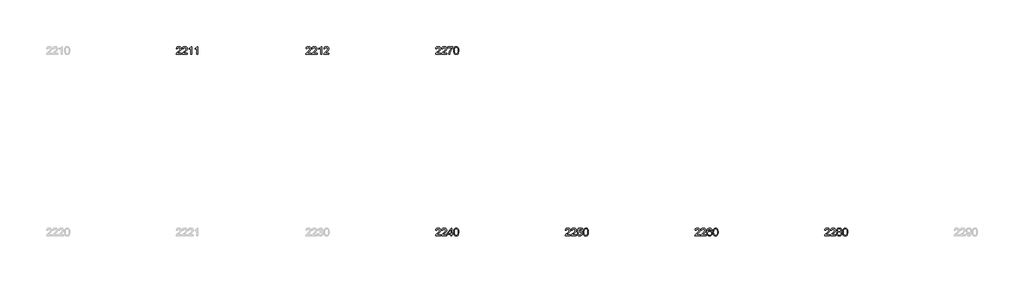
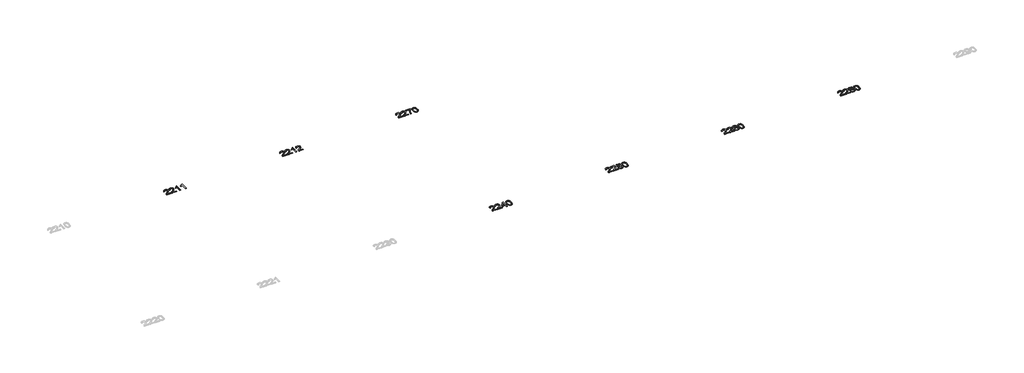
# One storey, part 5 of 6: 7 proxies.
"""IFC4 building model written with IfcOpenShell, lengths in millimetres."""

from ifc_helpers import new_model, si_unit, origin, origin_with_axes, place, context, project, spatial, polyline, outline, extrude, element, save

model = new_model("IFC4")

# Units and contexts
model_context = context("Model", 3, world=origin())
ifc_project = project(units=[si_unit("LENGTHUNIT", "METRE", prefix="MILLI")], contexts=[model_context])

# Site, building, storey
site = spatial("IfcSite", under=ifc_project)
building = spatial("IfcBuilding", under=site)
storey = spatial("IfcBuildingStorey", under=building, Name="Marelli - Linha HOSPITALITY - Planta Baixa", Elevation=0.0)

# Proxies
placement = place(None, origin())
element("IfcBuildingElementProxy", 1, Name="300mm Arial", ObjectType="300mm Arial", at=placement, inside=storey, context=model_context, shape_type="SweptSolid", body=[
    extrude(outline(polyline([(10652.3420691, 2257.1047962), (10652.3420691, 2219.4336799), (10454.5687085, 2219.4336799), (10458.6154104, 2245.4061488), (10467.9044308, 2265.7040379), (10481.4976705, 2285.3949217), (10501.1609632, 2306.0055104), (10528.6601423, 2329.0625145), (10569.3111028, 2365.1701323), (10593.701679, 2391.8231829), (10605.8969672, 2413.4546442), (10609.9620632, 2434.4974943), (10606.1268934, 2453.3606436), (10594.621384, 2469.0416137), (10576.9354571, 2479.609024), (10554.5590348, 2483.1314941), (10531.0605723, 2479.6917974), (10512.8044283, 2469.3727075), (10501.0230074, 2452.9835646), (10496.9487143, 2431.3337092), (10459.277598, 2436.0425987), (10468.4102685, 2472.4813103), (10476.9566271, 2487.0172476), (10488.1563346, 2499.0975727), (10501.7518736, 2508.5935267), (10517.4857267, 2515.376351), (10555.3683751, 2520.8026104), (10575.5581989, 2519.2942942), (10593.5269351, 2514.7693457), (10609.2745837, 2507.2277648), (10622.8011449, 2496.6695515), (10633.66516, 2483.8764551), (10641.4251709, 2469.6302249), (10646.0811774, 2453.9308607), (10647.6331795, 2436.7783627), (10645.9593165, 2418.761342), (10640.9377272, 2401.057021), (10632.0257859, 2383.0491973), (10618.6808665, 2364.1216686), (10597.4080901, 2341.5245171), (10564.7125778, 2312.5078247), (10521.3760788, 2276.2714482), (10504.3799306, 2257.1047962), (10652.3420691, 2257.1047962)])), origin_with_axes(), (0.0, 0.0, 1.0), 10.0),
    extrude(outline(polyline([(10883.0776564, 2257.1047962), (10883.0776564, 2219.4336799), (10685.3042958, 2219.4336799), (10689.3509978, 2245.4061488), (10698.6400182, 2265.7040379), (10712.2332579, 2285.3949217), (10731.8965505, 2306.0055104), (10759.3957297, 2329.0625145), (10800.0466901, 2365.1701323), (10824.4372664, 2391.8231829), (10836.6325546, 2413.4546442), (10840.6976506, 2434.4974943), (10836.8624808, 2453.3606436), (10825.3569714, 2469.0416137), (10807.6710445, 2479.609024), (10785.2946221, 2483.1314941), (10761.7961597, 2479.6917974), (10743.5400157, 2469.3727075), (10731.7585948, 2452.9835646), (10727.6843017, 2431.3337092), (10690.0131854, 2436.0425987), (10699.1458559, 2472.4813103), (10707.6922145, 2487.0172476), (10718.891922, 2499.0975727), (10732.487461, 2508.5935267), (10748.2213141, 2515.376351), (10786.1039625, 2520.8026104), (10806.2937863, 2519.2942942), (10824.2625225, 2514.7693457), (10840.0101711, 2507.2277648), (10853.5367322, 2496.6695515), (10864.4007474, 2483.8764551), (10872.1607582, 2469.6302249), (10876.8167647, 2453.9308607), (10878.3687669, 2436.7783627), (10876.6949038, 2418.761342), (10871.6733146, 2401.057021), (10862.7613733, 2383.0491973), (10849.4164539, 2364.1216686), (10828.1436775, 2341.5245171), (10795.4481652, 2312.5078247), (10752.1116662, 2276.2714482), (10735.115518, 2257.1047962), (10883.0776564, 2257.1047962)])), origin_with_axes(), (0.0, 0.0, 1.0), 10.0),
    extrude(outline(polyline([(11043.1799007, 2219.4336799), (11043.1799007, 2290.067023), (10906.6221041, 2290.067023), (10906.6221041, 2327.7381393), (11052.5976798, 2516.0937208), (11080.8510171, 2516.0937208), (11080.8510171, 2327.7381393), (11118.5221334, 2327.7381393), (11118.5221334, 2290.067023), (11080.8510171, 2290.067023), (11080.8510171, 2219.4336799), (11043.1799007, 2219.4336799)]), holes=[polyline([(11043.1799007, 2327.7381393), (11043.1799007, 2444.1360026), (10952.9752355, 2327.7381393), (11043.1799007, 2327.7381393)])]), origin_with_axes(), (0.0, 0.0, 1.0), 10.0),
    extrude(outline(polyline([(11151.4843601, 2367.690124), (11154.2526721, 2415.9286506), (11162.5576082, 2454.3999103), (11176.3163948, 2483.6925141), (11195.4462585, 2504.3950734), (11220.0851552, 2516.7007261), (11250.3710404, 2520.8026104), (11273.5843943, 2518.3745892), (11294.3697271, 2511.0905257), (11311.7521513, 2499.2355284), (11324.7567799, 2483.0947059), (11334.5792291, 2462.8060138), (11342.4151156, 2438.5074081), (11347.5470695, 2407.6513057), (11349.2577207, 2367.690124), (11346.5169999, 2319.7275089), (11338.2948373, 2281.3482197), (11324.6188241, 2252.0280247), (11305.5165515, 2231.242692), (11280.8224726, 2218.8542658), (11250.3710404, 2214.7247904), (11229.6224959, 2216.5182151), (11211.2283961, 2221.8984893), (11195.1887412, 2230.8656129), (11181.5035309, 2243.419586), (11168.3701437, 2266.1133066), (11158.9891528, 2294.3896364), (11153.3605583, 2328.2485756), (11151.4843601, 2367.690124)]), holes=[polyline([(11189.1554764, 2367.7637004), (11193.5700604, 2308.507108), (11199.0882903, 2288.2391093), (11206.8138122, 2274.211309), (11226.5322871, 2257.8497573), (11250.3710404, 2252.3959067), (11274.2097937, 2257.8681514), (11293.9282687, 2274.2848854), (11301.6537906, 2288.3356784), (11307.1720205, 2308.5990785), (11311.5866044, 2367.7637004), (11307.3191733, 2425.6867205), (11301.9848844, 2445.8880406), (11294.5168798, 2460.249234), (11274.8351931, 2477.410929), (11249.929582, 2483.1314941), (11226.3483461, 2478.0915107), (11207.4024234, 2462.9715607), (11199.4193841, 2447.3365759), (11193.7172132, 2426.2569376), (11189.1554764, 2367.7637004)])]), origin_with_axes(), (0.0, 0.0, 1.0), 10.0),
])
element("IfcBuildingElementProxy", 2, Name="300mm Arial", ObjectType="300mm Arial", at=placement, inside=storey, context=model_context, shape_type="SweptSolid", body=[
    extrude(outline(polyline([(10652.3420691, 9257.1047962), (10652.3420691, 9219.4336799), (10454.5687085, 9219.4336799), (10458.6154104, 9245.4061488), (10467.9044308, 9265.7040379), (10481.4976705, 9285.3949217), (10501.1609632, 9306.0055104), (10528.6601423, 9329.0625145), (10569.3111028, 9365.1701323), (10593.701679, 9391.8231829), (10605.8969672, 9413.4546442), (10609.9620632, 9434.4974943), (10606.1268934, 9453.3606436), (10594.621384, 9469.0416137), (10576.9354571, 9479.609024), (10554.5590348, 9483.1314941), (10531.0605723, 9479.6917974), (10512.8044283, 9469.3727075), (10501.0230074, 9452.9835646), (10496.9487143, 9431.3337092), (10459.277598, 9436.0425987), (10468.4102685, 9472.4813103), (10476.9566271, 9487.0172476), (10488.1563346, 9499.0975727), (10501.7518736, 9508.5935267), (10517.4857267, 9515.376351), (10555.3683751, 9520.8026104), (10575.5581989, 9519.2942942), (10593.5269351, 9514.7693457), (10609.2745837, 9507.2277648), (10622.8011449, 9496.6695515), (10633.66516, 9483.8764551), (10641.4251709, 9469.6302249), (10646.0811774, 9453.9308607), (10647.6331795, 9436.7783627), (10645.9593165, 9418.761342), (10640.9377272, 9401.057021), (10632.0257859, 9383.0491973), (10618.6808665, 9364.1216686), (10597.4080901, 9341.5245171), (10564.7125778, 9312.5078247), (10521.3760788, 9276.2714482), (10504.3799306, 9257.1047962), (10652.3420691, 9257.1047962)])), origin_with_axes(), (0.0, 0.0, 1.0), 10.0),
    extrude(outline(polyline([(10883.0776564, 9257.1047962), (10883.0776564, 9219.4336799), (10685.3042958, 9219.4336799), (10689.3509978, 9245.4061488), (10698.6400182, 9265.7040379), (10712.2332579, 9285.3949217), (10731.8965505, 9306.0055104), (10759.3957297, 9329.0625145), (10800.0466901, 9365.1701323), (10824.4372664, 9391.8231829), (10836.6325546, 9413.4546442), (10840.6976506, 9434.4974943), (10836.8624808, 9453.3606436), (10825.3569714, 9469.0416137), (10807.6710445, 9479.609024), (10785.2946221, 9483.1314941), (10761.7961597, 9479.6917974), (10743.5400157, 9469.3727075), (10731.7585948, 9452.9835646), (10727.6843017, 9431.3337092), (10690.0131854, 9436.0425987), (10699.1458559, 9472.4813103), (10707.6922145, 9487.0172476), (10718.891922, 9499.0975727), (10732.487461, 9508.5935267), (10748.2213141, 9515.376351), (10786.1039625, 9520.8026104), (10806.2937863, 9519.2942942), (10824.2625225, 9514.7693457), (10840.0101711, 9507.2277648), (10853.5367322, 9496.6695515), (10864.4007474, 9483.8764551), (10872.1607582, 9469.6302249), (10876.8167647, 9453.9308607), (10878.3687669, 9436.7783627), (10876.6949038, 9418.761342), (10871.6733146, 9401.057021), (10862.7613733, 9383.0491973), (10849.4164539, 9364.1216686), (10828.1436775, 9341.5245171), (10795.4481652, 9312.5078247), (10752.1116662, 9276.2714482), (10735.115518, 9257.1047962), (10883.0776564, 9257.1047962)])), origin_with_axes(), (0.0, 0.0, 1.0), 10.0),
    extrude(outline(polyline([(10920.7487728, 9478.4226045), (10920.7487728, 9516.0937208), (11118.5221334, 9516.0937208), (11118.5221334, 9485.6330916), (11090.3331755, 9449.9577352), (11062.4201291, 9404.5886881), (11037.7996266, 9353.6646229), (11019.4883003, 9301.3242121), (11010.5119796, 9262.1631737), (11005.5087844, 9219.4336799), (10967.8376681, 9219.4336799), (10971.9119612, 9258.2636245), (10982.8104653, 9304.4144208), (11000.2388749, 9353.3335291), (11023.9028842, 9400.4684098), (11051.530822, 9443.0783418), (11080.8510171, 9478.4226045), (10920.7487728, 9478.4226045)])), origin_with_axes(), (0.0, 0.0, 1.0), 10.0),
    extrude(outline(polyline([(11151.4843601, 9367.690124), (11154.2526721, 9415.9286506), (11162.5576082, 9454.3999103), (11176.3163948, 9483.6925141), (11195.4462585, 9504.3950734), (11220.0851552, 9516.7007261), (11250.3710404, 9520.8026104), (11273.5843943, 9518.3745892), (11294.3697271, 9511.0905257), (11311.7521513, 9499.2355284), (11324.7567799, 9483.0947059), (11334.5792291, 9462.8060138), (11342.4151156, 9438.5074081), (11347.5470695, 9407.6513057), (11349.2577207, 9367.690124), (11346.5169999, 9319.7275089), (11338.2948373, 9281.3482197), (11324.6188241, 9252.0280247), (11305.5165515, 9231.242692), (11280.8224726, 9218.8542658), (11250.3710404, 9214.7247904), (11229.6224959, 9216.5182151), (11211.2283961, 9221.8984893), (11195.1887412, 9230.8656129), (11181.5035309, 9243.419586), (11168.3701437, 9266.1133066), (11158.9891528, 9294.3896364), (11153.3605583, 9328.2485756), (11151.4843601, 9367.690124)]), holes=[polyline([(11189.1554764, 9367.7637004), (11193.5700604, 9308.507108), (11199.0882903, 9288.2391093), (11206.8138122, 9274.211309), (11226.5322871, 9257.8497573), (11250.3710404, 9252.3959067), (11274.2097937, 9257.8681514), (11293.9282687, 9274.2848854), (11301.6537906, 9288.3356784), (11307.1720205, 9308.5990785), (11311.5866044, 9367.7637004), (11307.3191733, 9425.6867205), (11301.9848844, 9445.8880406), (11294.5168798, 9460.249234), (11274.8351931, 9477.410929), (11249.929582, 9483.1314941), (11226.3483461, 9478.0915107), (11207.4024234, 9462.9715607), (11199.4193841, 9447.3365759), (11193.7172132, 9426.2569376), (11189.1554764, 9367.7637004)])]), origin_with_axes(), (0.0, 0.0, 1.0), 10.0),
])
element("IfcBuildingElementProxy", 3, Name="300mm Arial", ObjectType="300mm Arial", at=placement, inside=storey, context=model_context, shape_type="SweptSolid", body=[
    extrude(outline(polyline([(652.3420691, 9257.1047962), (652.3420691, 9219.4336799), (454.5687085, 9219.4336799), (458.6154104, 9245.4061488), (467.9044308, 9265.7040379), (481.4976705, 9285.3949217), (501.1609632, 9306.0055104), (528.6601423, 9329.0625145), (569.3111028, 9365.1701323), (593.701679, 9391.8231829), (605.8969672, 9413.4546442), (609.9620632, 9434.4974943), (606.1268934, 9453.3606436), (594.621384, 9469.0416137), (576.9354571, 9479.609024), (554.5590348, 9483.1314941), (531.0605723, 9479.6917974), (512.8044283, 9469.3727075), (501.0230074, 9452.9835646), (496.9487143, 9431.3337092), (459.277598, 9436.0425987), (468.4102685, 9472.4813103), (476.9566271, 9487.0172476), (488.1563346, 9499.0975727), (501.7518736, 9508.5935267), (517.4857267, 9515.376351), (555.3683751, 9520.8026104), (575.5581989, 9519.2942942), (593.5269351, 9514.7693457), (609.2745837, 9507.2277648), (622.8011449, 9496.6695515), (633.66516, 9483.8764551), (641.4251709, 9469.6302249), (646.0811774, 9453.9308607), (647.6331795, 9436.7783627), (645.9593165, 9418.761342), (640.9377272, 9401.057021), (632.0257859, 9383.0491973), (618.6808665, 9364.1216686), (597.4080901, 9341.5245171), (564.7125778, 9312.5078247), (521.3760788, 9276.2714482), (504.3799306, 9257.1047962), (652.3420691, 9257.1047962)])), origin_with_axes(), (0.0, 0.0, 1.0), 10.0),
    extrude(outline(polyline([(883.0776564, 9257.1047962), (883.0776564, 9219.4336799), (685.3042958, 9219.4336799), (689.3509978, 9245.4061488), (698.6400182, 9265.7040379), (712.2332579, 9285.3949217), (731.8965505, 9306.0055104), (759.3957297, 9329.0625145), (800.0466901, 9365.1701323), (824.4372664, 9391.8231829), (836.6325546, 9413.4546442), (840.6976506, 9434.4974943), (836.8624808, 9453.3606436), (825.3569714, 9469.0416137), (807.6710445, 9479.609024), (785.2946221, 9483.1314941), (761.7961597, 9479.6917974), (743.5400157, 9469.3727075), (731.7585948, 9452.9835646), (727.6843017, 9431.3337092), (690.0131854, 9436.0425987), (699.1458559, 9472.4813103), (707.6922145, 9487.0172476), (718.891922, 9499.0975727), (732.487461, 9508.5935267), (748.2213141, 9515.376351), (786.1039625, 9520.8026104), (806.2937863, 9519.2942942), (824.2625225, 9514.7693457), (840.0101711, 9507.2277648), (853.5367322, 9496.6695515), (864.4007474, 9483.8764551), (872.1607582, 9469.6302249), (876.8167647, 9453.9308607), (878.3687669, 9436.7783627), (876.6949038, 9418.761342), (871.6733146, 9401.057021), (862.7613733, 9383.0491973), (849.4164539, 9364.1216686), (828.1436775, 9341.5245171), (795.4481652, 9312.5078247), (752.1116662, 9276.2714482), (735.115518, 9257.1047962), (883.0776564, 9257.1047962)])), origin_with_axes(), (0.0, 0.0, 1.0), 10.0),
    extrude(outline(polyline([(1062.0154589, 9219.4336799), (1024.3443426, 9219.4336799), (1024.3443426, 9454.2895457), (988.6597891, 9428.8688998), (949.00211, 9409.8494006), (949.00211, 9445.4603778), (978.5890194, 9461.5552151), (1004.2211975, 9480.7034729), (1024.427116, 9501.0657413), (1037.7352472, 9520.8026104), (1062.0154589, 9520.8026104), (1062.0154589, 9219.4336799)])), origin_with_axes(), (0.0, 0.0, 1.0), 10.0),
    extrude(outline(polyline([(1292.7510463, 9219.4336799), (1255.07993, 9219.4336799), (1255.07993, 9454.2895457), (1219.3953764, 9428.8688998), (1179.7376974, 9409.8494006), (1179.7376974, 9445.4603778), (1209.3246068, 9461.5552151), (1234.9567848, 9480.7034729), (1255.1627034, 9501.0657413), (1268.4708346, 9520.8026104), (1292.7510463, 9520.8026104), (1292.7510463, 9219.4336799)])), origin_with_axes(), (0.0, 0.0, 1.0), 10.0),
])
element("IfcBuildingElementProxy", 4, Name="300mm Arial", ObjectType="300mm Arial", at=placement, inside=storey, context=model_context, shape_type="SweptSolid", body=[
    extrude(outline(polyline([(5652.3420691, 9257.1047962), (5652.3420691, 9219.4336799), (5454.5687085, 9219.4336799), (5458.6154104, 9245.4061488), (5467.9044308, 9265.7040379), (5481.4976705, 9285.3949217), (5501.1609632, 9306.0055104), (5528.6601423, 9329.0625145), (5569.3111028, 9365.1701323), (5593.701679, 9391.8231829), (5605.8969672, 9413.4546442), (5609.9620632, 9434.4974943), (5606.1268934, 9453.3606436), (5594.621384, 9469.0416137), (5576.9354571, 9479.609024), (5554.5590348, 9483.1314941), (5531.0605723, 9479.6917974), (5512.8044283, 9469.3727075), (5501.0230074, 9452.9835646), (5496.9487143, 9431.3337092), (5459.277598, 9436.0425987), (5468.4102685, 9472.4813103), (5476.9566271, 9487.0172476), (5488.1563346, 9499.0975727), (5501.7518736, 9508.5935267), (5517.4857267, 9515.376351), (5555.3683751, 9520.8026104), (5575.5581989, 9519.2942942), (5593.5269351, 9514.7693457), (5609.2745837, 9507.2277648), (5622.8011449, 9496.6695515), (5633.66516, 9483.8764551), (5641.4251709, 9469.6302249), (5646.0811774, 9453.9308607), (5647.6331795, 9436.7783627), (5645.9593165, 9418.761342), (5640.9377272, 9401.057021), (5632.0257859, 9383.0491973), (5618.6808665, 9364.1216686), (5597.4080901, 9341.5245171), (5564.7125778, 9312.5078247), (5521.3760788, 9276.2714482), (5504.3799306, 9257.1047962), (5652.3420691, 9257.1047962)])), origin_with_axes(), (0.0, 0.0, 1.0), 10.0),
    extrude(outline(polyline([(5883.0776564, 9257.1047962), (5883.0776564, 9219.4336799), (5685.3042958, 9219.4336799), (5689.3509978, 9245.4061488), (5698.6400182, 9265.7040379), (5712.2332579, 9285.3949217), (5731.8965505, 9306.0055104), (5759.3957297, 9329.0625145), (5800.0466901, 9365.1701323), (5824.4372664, 9391.8231829), (5836.6325546, 9413.4546442), (5840.6976506, 9434.4974943), (5836.8624808, 9453.3606436), (5825.3569714, 9469.0416137), (5807.6710445, 9479.609024), (5785.2946221, 9483.1314941), (5761.7961597, 9479.6917974), (5743.5400157, 9469.3727075), (5731.7585948, 9452.9835646), (5727.6843017, 9431.3337092), (5690.0131854, 9436.0425987), (5699.1458559, 9472.4813103), (5707.6922145, 9487.0172476), (5718.891922, 9499.0975727), (5732.487461, 9508.5935267), (5748.2213141, 9515.376351), (5786.1039625, 9520.8026104), (5806.2937863, 9519.2942942), (5824.2625225, 9514.7693457), (5840.0101711, 9507.2277648), (5853.5367322, 9496.6695515), (5864.4007474, 9483.8764551), (5872.1607582, 9469.6302249), (5876.8167647, 9453.9308607), (5878.3687669, 9436.7783627), (5876.6949038, 9418.761342), (5871.6733146, 9401.057021), (5862.7613733, 9383.0491973), (5849.4164539, 9364.1216686), (5828.1436775, 9341.5245171), (5795.4481652, 9312.5078247), (5752.1116662, 9276.2714482), (5735.115518, 9257.1047962), (5883.0776564, 9257.1047962)])), origin_with_axes(), (0.0, 0.0, 1.0), 10.0),
    extrude(outline(polyline([(6062.0154589, 9219.4336799), (6024.3443426, 9219.4336799), (6024.3443426, 9454.2895457), (5988.6597891, 9428.8688998), (5949.00211, 9409.8494006), (5949.00211, 9445.4603778), (5978.5890194, 9461.5552151), (6004.2211975, 9480.7034729), (6024.427116, 9501.0657413), (6037.7352472, 9520.8026104), (6062.0154589, 9520.8026104), (6062.0154589, 9219.4336799)])), origin_with_axes(), (0.0, 0.0, 1.0), 10.0),
    extrude(outline(polyline([(6344.5488312, 9257.1047962), (6344.5488312, 9219.4336799), (6146.7754706, 9219.4336799), (6150.8221725, 9245.4061488), (6160.1111929, 9265.7040379), (6173.7044326, 9285.3949217), (6193.3677253, 9306.0055104), (6220.8669044, 9329.0625145), (6261.5178649, 9365.1701323), (6285.9084412, 9391.8231829), (6298.1037293, 9413.4546442), (6302.1688253, 9434.4974943), (6298.3336555, 9453.3606436), (6286.8281462, 9469.0416137), (6269.1422192, 9479.609024), (6246.7657969, 9483.1314941), (6223.2673344, 9479.6917974), (6205.0111904, 9469.3727075), (6193.2297695, 9452.9835646), (6189.1554764, 9431.3337092), (6151.4843601, 9436.0425987), (6160.6170307, 9472.4813103), (6169.1633893, 9487.0172476), (6180.3630967, 9499.0975727), (6193.9586357, 9508.5935267), (6209.6924888, 9515.376351), (6247.5751373, 9520.8026104), (6267.764961, 9519.2942942), (6285.7336972, 9514.7693457), (6301.4813459, 9507.2277648), (6315.007907, 9496.6695515), (6325.8719222, 9483.8764551), (6333.631933, 9469.6302249), (6338.2879395, 9453.9308607), (6339.8399417, 9436.7783627), (6338.1660786, 9418.761342), (6333.1444893, 9401.057021), (6324.232548, 9383.0491973), (6310.8876286, 9364.1216686), (6289.6148523, 9341.5245171), (6256.9193399, 9312.5078247), (6213.5828409, 9276.2714482), (6196.5866927, 9257.1047962), (6344.5488312, 9257.1047962)])), origin_with_axes(), (0.0, 0.0, 1.0), 10.0),
])
element("IfcBuildingElementProxy", 5, Name="300mm Arial", ObjectType="300mm Arial", at=placement, inside=storey, context=model_context, shape_type="SweptSolid", body=[
    extrude(outline(polyline([(15652.3420691, 2257.1047962), (15652.3420691, 2219.4336799), (15454.5687085, 2219.4336799), (15458.6154104, 2245.4061488), (15467.9044308, 2265.7040379), (15481.4976705, 2285.3949217), (15501.1609632, 2306.0055104), (15528.6601423, 2329.0625145), (15569.3111028, 2365.1701323), (15593.701679, 2391.8231829), (15605.8969672, 2413.4546442), (15609.9620632, 2434.4974943), (15606.1268934, 2453.3606436), (15594.621384, 2469.0416137), (15576.9354571, 2479.609024), (15554.5590348, 2483.1314941), (15531.0605723, 2479.6917974), (15512.8044283, 2469.3727075), (15501.0230074, 2452.9835646), (15496.9487143, 2431.3337092), (15459.277598, 2436.0425987), (15468.4102685, 2472.4813103), (15476.9566271, 2487.0172476), (15488.1563346, 2499.0975727), (15501.7518736, 2508.5935267), (15517.4857267, 2515.376351), (15555.3683751, 2520.8026104), (15575.5581989, 2519.2942942), (15593.5269351, 2514.7693457), (15609.2745837, 2507.2277648), (15622.8011449, 2496.6695515), (15633.66516, 2483.8764551), (15641.4251709, 2469.6302249), (15646.0811774, 2453.9308607), (15647.6331795, 2436.7783627), (15645.9593165, 2418.761342), (15640.9377272, 2401.057021), (15632.0257859, 2383.0491973), (15618.6808665, 2364.1216686), (15597.4080901, 2341.5245171), (15564.7125778, 2312.5078247), (15521.3760788, 2276.2714482), (15504.3799306, 2257.1047962), (15652.3420691, 2257.1047962)])), origin_with_axes(), (0.0, 0.0, 1.0), 10.0),
    extrude(outline(polyline([(15883.0776564, 2257.1047962), (15883.0776564, 2219.4336799), (15685.3042958, 2219.4336799), (15689.3509978, 2245.4061488), (15698.6400182, 2265.7040379), (15712.2332579, 2285.3949217), (15731.8965505, 2306.0055104), (15759.3957297, 2329.0625145), (15800.0466901, 2365.1701323), (15824.4372664, 2391.8231829), (15836.6325546, 2413.4546442), (15840.6976506, 2434.4974943), (15836.8624808, 2453.3606436), (15825.3569714, 2469.0416137), (15807.6710445, 2479.609024), (15785.2946221, 2483.1314941), (15761.7961597, 2479.6917974), (15743.5400157, 2469.3727075), (15731.7585948, 2452.9835646), (15727.6843017, 2431.3337092), (15690.0131854, 2436.0425987), (15699.1458559, 2472.4813103), (15707.6922145, 2487.0172476), (15718.891922, 2499.0975727), (15732.487461, 2508.5935267), (15748.2213141, 2515.376351), (15786.1039625, 2520.8026104), (15806.2937863, 2519.2942942), (15824.2625225, 2514.7693457), (15840.0101711, 2507.2277648), (15853.5367322, 2496.6695515), (15864.4007474, 2483.8764551), (15872.1607582, 2469.6302249), (15876.8167647, 2453.9308607), (15878.3687669, 2436.7783627), (15876.6949038, 2418.761342), (15871.6733146, 2401.057021), (15862.7613733, 2383.0491973), (15849.4164539, 2364.1216686), (15828.1436775, 2341.5245171), (15795.4481652, 2312.5078247), (15752.1116662, 2276.2714482), (15735.115518, 2257.1047962), (15883.0776564, 2257.1047962)])), origin_with_axes(), (0.0, 0.0, 1.0), 10.0),
    extrude(outline(polyline([(15920.7487728, 2299.4848021), (15958.4198891, 2304.1936916), (15965.3360706, 2281.578146), (15977.4026, 2265.3821411), (15994.5642951, 2255.6424653), (16016.7659735, 2252.3959067), (16043.7685119, 2256.9116582), (16064.0020217, 2270.4589127), (16076.6387682, 2291.4741716), (16080.8510171, 2318.3939366), (16076.9054827, 2343.7410061), (16065.0688795, 2363.1283872), (16045.249237, 2375.43404), (16017.3545847, 2379.5359242), (15999.0800466, 2377.8988494), (15984.2819933, 2372.9876247), (15963.1287786, 2355.9914765), (15925.4576623, 2360.7003661), (15958.4198891, 2516.0937208), (16104.3954647, 2516.0937208), (16104.3954647, 2478.4226045), (15988.8805183, 2478.4226045), (15972.7672869, 2395.4284264), (15999.6778548, 2411.762387), (16027.8760097, 2417.2070405), (16046.221825, 2415.5193819), (16063.0731196, 2410.4564059), (16078.4298937, 2402.0181127), (16092.2921471, 2390.2045021), (16103.7677661, 2375.7375426), (16111.9646368, 2359.3392027), (16116.8827592, 2341.0094823), (16118.5221334, 2320.7483814), (16112.6176273, 2283.0772651), (16105.2369948, 2266.283452), (16094.9041093, 2250.8508023), (16079.2507304, 2235.0456721), (16060.9853893, 2223.7562934), (16040.1080861, 2216.9826661), (16016.6188207, 2214.7247904), (15979.619089, 2220.5281289), (15963.9404182, 2227.782302), (15950.1425442, 2237.9381443), (15938.6623267, 2250.4898181), (15929.9366256, 2264.9314857), (15920.7487728, 2299.4848021)])), origin_with_axes(), (0.0, 0.0, 1.0), 10.0),
    extrude(outline(polyline([(16151.4843601, 2367.690124), (16154.2526721, 2415.9286506), (16162.5576082, 2454.3999103), (16176.3163948, 2483.6925141), (16195.4462585, 2504.3950734), (16220.0851552, 2516.7007261), (16250.3710404, 2520.8026104), (16273.5843943, 2518.3745892), (16294.3697271, 2511.0905257), (16311.7521513, 2499.2355284), (16324.7567799, 2483.0947059), (16334.5792291, 2462.8060138), (16342.4151156, 2438.5074081), (16347.5470695, 2407.6513057), (16349.2577207, 2367.690124), (16346.5169999, 2319.7275089), (16338.2948373, 2281.3482197), (16324.6188241, 2252.0280247), (16305.5165515, 2231.242692), (16280.8224726, 2218.8542658), (16250.3710404, 2214.7247904), (16229.6224959, 2216.5182151), (16211.2283961, 2221.8984893), (16195.1887412, 2230.8656129), (16181.5035309, 2243.419586), (16168.3701437, 2266.1133066), (16158.9891528, 2294.3896364), (16153.3605583, 2328.2485756), (16151.4843601, 2367.690124)]), holes=[polyline([(16189.1554764, 2367.7637004), (16193.5700604, 2308.507108), (16199.0882903, 2288.2391093), (16206.8138122, 2274.211309), (16226.5322871, 2257.8497573), (16250.3710404, 2252.3959067), (16274.2097937, 2257.8681514), (16293.9282687, 2274.2848854), (16301.6537906, 2288.3356784), (16307.1720205, 2308.5990785), (16311.5866044, 2367.7637004), (16307.3191733, 2425.6867205), (16301.9848844, 2445.8880406), (16294.5168798, 2460.249234), (16274.8351931, 2477.410929), (16249.929582, 2483.1314941), (16226.3483461, 2478.0915107), (16207.4024234, 2462.9715607), (16199.4193841, 2447.3365759), (16193.7172132, 2426.2569376), (16189.1554764, 2367.7637004)])]), origin_with_axes(), (0.0, 0.0, 1.0), 10.0),
])
element("IfcBuildingElementProxy", 6, Name="300mm Arial", ObjectType="300mm Arial", at=placement, inside=storey, context=model_context, shape_type="SweptSolid", body=[
    extrude(outline(polyline([(25652.3420691, 2257.1047962), (25652.3420691, 2219.4336799), (25454.5687085, 2219.4336799), (25458.6154104, 2245.4061488), (25467.9044308, 2265.7040379), (25481.4976705, 2285.3949217), (25501.1609632, 2306.0055104), (25528.6601423, 2329.0625145), (25569.3111028, 2365.1701323), (25593.701679, 2391.8231829), (25605.8969672, 2413.4546442), (25609.9620632, 2434.4974943), (25606.1268934, 2453.3606436), (25594.621384, 2469.0416137), (25576.9354571, 2479.609024), (25554.5590348, 2483.1314941), (25531.0605723, 2479.6917974), (25512.8044283, 2469.3727075), (25501.0230074, 2452.9835646), (25496.9487143, 2431.3337092), (25459.277598, 2436.0425987), (25468.4102685, 2472.4813103), (25476.9566271, 2487.0172476), (25488.1563346, 2499.0975727), (25501.7518736, 2508.5935267), (25517.4857267, 2515.376351), (25555.3683751, 2520.8026104), (25575.5581989, 2519.2942942), (25593.5269351, 2514.7693457), (25609.2745837, 2507.2277648), (25622.8011449, 2496.6695515), (25633.66516, 2483.8764551), (25641.4251709, 2469.6302249), (25646.0811774, 2453.9308607), (25647.6331795, 2436.7783627), (25645.9593165, 2418.761342), (25640.9377272, 2401.057021), (25632.0257859, 2383.0491973), (25618.6808665, 2364.1216686), (25597.4080901, 2341.5245171), (25564.7125778, 2312.5078247), (25521.3760788, 2276.2714482), (25504.3799306, 2257.1047962), (25652.3420691, 2257.1047962)])), origin_with_axes(), (0.0, 0.0, 1.0), 10.0),
    extrude(outline(polyline([(25883.0776564, 2257.1047962), (25883.0776564, 2219.4336799), (25685.3042958, 2219.4336799), (25689.3509978, 2245.4061488), (25698.6400182, 2265.7040379), (25712.2332579, 2285.3949217), (25731.8965505, 2306.0055104), (25759.3957297, 2329.0625145), (25800.0466901, 2365.1701323), (25824.4372664, 2391.8231829), (25836.6325546, 2413.4546442), (25840.6976506, 2434.4974943), (25836.8624808, 2453.3606436), (25825.3569714, 2469.0416137), (25807.6710445, 2479.609024), (25785.2946221, 2483.1314941), (25761.7961597, 2479.6917974), (25743.5400157, 2469.3727075), (25731.7585948, 2452.9835646), (25727.6843017, 2431.3337092), (25690.0131854, 2436.0425987), (25699.1458559, 2472.4813103), (25707.6922145, 2487.0172476), (25718.891922, 2499.0975727), (25732.487461, 2508.5935267), (25748.2213141, 2515.376351), (25786.1039625, 2520.8026104), (25806.2937863, 2519.2942942), (25824.2625225, 2514.7693457), (25840.0101711, 2507.2277648), (25853.5367322, 2496.6695515), (25864.4007474, 2483.8764551), (25872.1607582, 2469.6302249), (25876.8167647, 2453.9308607), (25878.3687669, 2436.7783627), (25876.6949038, 2418.761342), (25871.6733146, 2401.057021), (25862.7613733, 2383.0491973), (25849.4164539, 2364.1216686), (25828.1436775, 2341.5245171), (25795.4481652, 2312.5078247), (25752.1116662, 2276.2714482), (25735.115518, 2257.1047962), (25883.0776564, 2257.1047962)])), origin_with_axes(), (0.0, 0.0, 1.0), 10.0),
    extrude(outline(polyline([(25975.6367664, 2385.4220362), (25955.467636, 2395.35485), (25941.3133763, 2408.819331), (25932.9532579, 2425.5395677), (25930.1665518, 2445.2396486), (25931.6840651, 2460.6033204), (25936.2366047, 2474.6886023), (25943.8241709, 2487.4954942), (25954.4467635, 2499.0239963), (25967.5939463, 2508.5521399), (25982.755283, 2515.3579569), (26019.1204183, 2520.8026104), (26055.7062827, 2515.2291982), (26071.0331663, 2508.2624329), (26084.3826842, 2498.5089615), (26095.1984149, 2486.7551317), (26102.9239368, 2473.7872914), (26107.5592499, 2459.6054405), (26109.1043543, 2444.209579), (26106.3544364, 2425.1440946), (26098.1046826, 2408.7089665), (26084.2631226, 2395.3272589), (26064.7377857, 2385.4220362), (26087.9235484, 2373.4750684), (26104.8001349, 2355.8811119), (26115.0916338, 2333.4862955), (26118.5221334, 2307.1367476), (26116.8206791, 2288.3471747), (26111.7163164, 2271.1211003), (26103.2090453, 2255.4585243), (26091.2988657, 2241.3594468), (26076.6111771, 2229.7067846), (26059.7713787, 2221.3834545), (26040.7794707, 2216.3894564), (26019.6354531, 2214.7247904), (25998.4914354, 2216.3963542), (25979.4995274, 2221.4110457), (25962.6597291, 2229.7688647), (25947.9720404, 2241.4698114), (25936.0618608, 2255.6677572), (25927.5545897, 2271.5165734), (25922.450227, 2289.0162601), (25920.7487728, 2308.1668172), (25924.3172281, 2335.5372376), (25935.0225942, 2358.0516157), (25952.3130479, 2374.9373993), (25975.6367664, 2385.4220362)]), holes=[polyline([(25967.8376681, 2444.1360026), (25971.1761972, 2427.6916774), (25981.1917846, 2414.5582902), (25997.5901245, 2405.9498515), (26020.0769114, 2403.0803719), (26042.0394666, 2405.9314574), (26058.1894861, 2414.4847138), (26068.1223, 2427.1766426), (26071.433238, 2442.4437454), (26068.0119354, 2458.2902624), (26057.7480278, 2471.3960584), (26041.377279, 2480.1976352), (26019.6354531, 2483.1314941), (25997.7556714, 2480.2620145), (25981.4125138, 2471.6535758), (25971.2313795, 2459.0352234), (25967.8376681, 2444.1360026)]), polyline([(25958.4198891, 2309.4911924), (25964.7106712, 2281.1274905), (25973.4202774, 2268.9597935), (25986.9675319, 2259.9006994), (26003.1911279, 2254.2721049), (26019.9297586, 2252.3959067), (26045.5711337, 2256.3414411), (26064.8113621, 2268.1780443), (26076.8411033, 2286.1030945), (26080.8510171, 2308.31397), (26076.7123446, 2330.9019245), (26064.2963273, 2349.2224478), (26044.6146405, 2361.3625537), (26018.6789599, 2365.4092556), (25993.3962697, 2361.417736), (25974.3491794, 2349.443177), (25962.4022117, 2331.4721416), (25958.4198891, 2309.4911924)])]), origin_with_axes(), (0.0, 0.0, 1.0), 10.0),
    extrude(outline(polyline([(26151.4843601, 2367.690124), (26154.2526721, 2415.9286506), (26162.5576082, 2454.3999103), (26176.3163948, 2483.6925141), (26195.4462585, 2504.3950734), (26220.0851552, 2516.7007261), (26250.3710404, 2520.8026104), (26273.5843943, 2518.3745892), (26294.3697271, 2511.0905257), (26311.7521513, 2499.2355284), (26324.7567799, 2483.0947059), (26334.5792291, 2462.8060138), (26342.4151156, 2438.5074081), (26347.5470695, 2407.6513057), (26349.2577207, 2367.690124), (26346.5169999, 2319.7275089), (26338.2948373, 2281.3482197), (26324.6188241, 2252.0280247), (26305.5165515, 2231.242692), (26280.8224726, 2218.8542658), (26250.3710404, 2214.7247904), (26229.6224959, 2216.5182151), (26211.2283961, 2221.8984893), (26195.1887412, 2230.8656129), (26181.5035309, 2243.419586), (26168.3701437, 2266.1133066), (26158.9891528, 2294.3896364), (26153.3605583, 2328.2485756), (26151.4843601, 2367.690124)]), holes=[polyline([(26189.1554764, 2367.7637004), (26193.5700604, 2308.507108), (26199.0882903, 2288.2391093), (26206.8138122, 2274.211309), (26226.5322871, 2257.8497573), (26250.3710404, 2252.3959067), (26274.2097937, 2257.8681514), (26293.9282687, 2274.2848854), (26301.6537906, 2288.3356784), (26307.1720205, 2308.5990785), (26311.5866044, 2367.7637004), (26307.3191733, 2425.6867205), (26301.9848844, 2445.8880406), (26294.5168798, 2460.249234), (26274.8351931, 2477.410929), (26249.929582, 2483.1314941), (26226.3483461, 2478.0915107), (26207.4024234, 2462.9715607), (26199.4193841, 2447.3365759), (26193.7172132, 2426.2569376), (26189.1554764, 2367.7637004)])]), origin_with_axes(), (0.0, 0.0, 1.0), 10.0),
])
element("IfcBuildingElementProxy", 7, Name="300mm Arial", ObjectType="300mm Arial", at=placement, inside=storey, context=model_context, shape_type="SweptSolid", body=[
    extrude(outline(polyline([(20652.3420691, 2257.1047962), (20652.3420691, 2219.4336799), (20454.5687085, 2219.4336799), (20458.6154104, 2245.4061488), (20467.9044308, 2265.7040379), (20481.4976705, 2285.3949217), (20501.1609632, 2306.0055104), (20528.6601423, 2329.0625145), (20569.3111028, 2365.1701323), (20593.701679, 2391.8231829), (20605.8969672, 2413.4546442), (20609.9620632, 2434.4974943), (20606.1268934, 2453.3606436), (20594.621384, 2469.0416137), (20576.9354571, 2479.609024), (20554.5590348, 2483.1314941), (20531.0605723, 2479.6917974), (20512.8044283, 2469.3727075), (20501.0230074, 2452.9835646), (20496.9487143, 2431.3337092), (20459.277598, 2436.0425987), (20468.4102685, 2472.4813103), (20476.9566271, 2487.0172476), (20488.1563346, 2499.0975727), (20501.7518736, 2508.5935267), (20517.4857267, 2515.376351), (20555.3683751, 2520.8026104), (20575.5581989, 2519.2942942), (20593.5269351, 2514.7693457), (20609.2745837, 2507.2277648), (20622.8011449, 2496.6695515), (20633.66516, 2483.8764551), (20641.4251709, 2469.6302249), (20646.0811774, 2453.9308607), (20647.6331795, 2436.7783627), (20645.9593165, 2418.761342), (20640.9377272, 2401.057021), (20632.0257859, 2383.0491973), (20618.6808665, 2364.1216686), (20597.4080901, 2341.5245171), (20564.7125778, 2312.5078247), (20521.3760788, 2276.2714482), (20504.3799306, 2257.1047962), (20652.3420691, 2257.1047962)])), origin_with_axes(), (0.0, 0.0, 1.0), 10.0),
    extrude(outline(polyline([(20883.0776564, 2257.1047962), (20883.0776564, 2219.4336799), (20685.3042958, 2219.4336799), (20689.3509978, 2245.4061488), (20698.6400182, 2265.7040379), (20712.2332579, 2285.3949217), (20731.8965505, 2306.0055104), (20759.3957297, 2329.0625145), (20800.0466901, 2365.1701323), (20824.4372664, 2391.8231829), (20836.6325546, 2413.4546442), (20840.6976506, 2434.4974943), (20836.8624808, 2453.3606436), (20825.3569714, 2469.0416137), (20807.6710445, 2479.609024), (20785.2946221, 2483.1314941), (20761.7961597, 2479.6917974), (20743.5400157, 2469.3727075), (20731.7585948, 2452.9835646), (20727.6843017, 2431.3337092), (20690.0131854, 2436.0425987), (20699.1458559, 2472.4813103), (20707.6922145, 2487.0172476), (20718.891922, 2499.0975727), (20732.487461, 2508.5935267), (20748.2213141, 2515.376351), (20786.1039625, 2520.8026104), (20806.2937863, 2519.2942942), (20824.2625225, 2514.7693457), (20840.0101711, 2507.2277648), (20853.5367322, 2496.6695515), (20864.4007474, 2483.8764551), (20872.1607582, 2469.6302249), (20876.8167647, 2453.9308607), (20878.3687669, 2436.7783627), (20876.6949038, 2418.761342), (20871.6733146, 2401.057021), (20862.7613733, 2383.0491973), (20849.4164539, 2364.1216686), (20828.1436775, 2341.5245171), (20795.4481652, 2312.5078247), (20752.1116662, 2276.2714482), (20735.115518, 2257.1047962), (20883.0776564, 2257.1047962)])), origin_with_axes(), (0.0, 0.0, 1.0), 10.0),
    extrude(outline(polyline([(21113.8132438, 2440.7514882), (21076.1421275, 2436.0425987), (21070.0720746, 2454.7126099), (21061.8683061, 2467.4597211), (21044.7801874, 2479.2135508), (21024.1236134, 2483.1314941), (21006.6124304, 2480.8506257), (20990.131317, 2474.0080206), (20975.9770573, 2459.5962434), (20964.4163656, 2439.7582068), (20956.6080702, 2411.6980077), (20953.7109995, 2372.6197427), (20968.8217525, 2390.2504873), (20986.9307437, 2402.6757017), (21007.0262977, 2410.0425387), (21028.0967389, 2412.498151), (21046.1965331, 2410.8196894), (21062.8983757, 2405.7843046), (21078.2022667, 2397.3919966), (21092.1082061, 2385.6427654), (21103.6642993, 2371.2355867), (21111.9186515, 2354.8694365), (21116.8712629, 2336.5443146), (21118.5221334, 2316.2602211), (21115.4135305, 2289.2852738), (21106.0877219, 2264.2784951), (21091.3172598, 2243.0700981), (21071.8746964, 2227.4902956), (21048.6429484, 2217.9161667), (21022.5049326, 2214.7247904), (21000.0480361, 2216.8401119), (20979.7662418, 2223.1860763), (20961.6595499, 2233.7626836), (20945.7279602, 2248.5699339), (20932.7394265, 2268.2332266), (20923.4619025, 2293.377961), (20917.895388, 2324.0041371), (20916.0398832, 2360.1117549), (20918.1000224, 2400.5925699), (20924.2804399, 2435.1412878), (20934.5811358, 2463.7579085), (20949.00211, 2486.442432), (20964.6324962, 2501.4750101), (20982.755283, 2512.2125658), (21003.3704703, 2518.6550992), (21026.4780582, 2520.8026104), (21059.5322554, 2515.4867156), (21086.001365, 2499.5390311), (21104.5426175, 2474.2103557), (21113.8132438, 2440.7514882)]), holes=[polyline([(20953.7109995, 2316.8488323), (20955.8907003, 2300.1561867), (20962.4298028, 2284.2176993), (20972.5833459, 2270.514095), (20985.6063685, 2260.5260988), (21001.3241267, 2254.4284547), (21019.5618767, 2252.3959067), (21044.4215025, 2256.6081555), (21063.9652335, 2269.2449021), (21076.6295712, 2289.1105298), (21080.8510171, 2315.0094223), (21076.6847535, 2339.8690481), (21064.1859627, 2358.8241679), (21044.3111379, 2370.826318), (21018.0167723, 2374.8270347), (20993.1939347, 2370.826318), (20972.4361931, 2358.8241679), (20958.3922979, 2340.3289006), (20953.7109995, 2316.8488323)])]), origin_with_axes(), (0.0, 0.0, 1.0), 10.0),
    extrude(outline(polyline([(21151.4843601, 2367.690124), (21154.2526721, 2415.9286506), (21162.5576082, 2454.3999103), (21176.3163948, 2483.6925141), (21195.4462585, 2504.3950734), (21220.0851552, 2516.7007261), (21250.3710404, 2520.8026104), (21273.5843943, 2518.3745892), (21294.3697271, 2511.0905257), (21311.7521513, 2499.2355284), (21324.7567799, 2483.0947059), (21334.5792291, 2462.8060138), (21342.4151156, 2438.5074081), (21347.5470695, 2407.6513057), (21349.2577207, 2367.690124), (21346.5169999, 2319.7275089), (21338.2948373, 2281.3482197), (21324.6188241, 2252.0280247), (21305.5165515, 2231.242692), (21280.8224726, 2218.8542658), (21250.3710404, 2214.7247904), (21229.6224959, 2216.5182151), (21211.2283961, 2221.8984893), (21195.1887412, 2230.8656129), (21181.5035309, 2243.419586), (21168.3701437, 2266.1133066), (21158.9891528, 2294.3896364), (21153.3605583, 2328.2485756), (21151.4843601, 2367.690124)]), holes=[polyline([(21189.1554764, 2367.7637004), (21193.5700604, 2308.507108), (21199.0882903, 2288.2391093), (21206.8138122, 2274.211309), (21226.5322871, 2257.8497573), (21250.3710404, 2252.3959067), (21274.2097937, 2257.8681514), (21293.9282687, 2274.2848854), (21301.6537906, 2288.3356784), (21307.1720205, 2308.5990785), (21311.5866044, 2367.7637004), (21307.3191733, 2425.6867205), (21301.9848844, 2445.8880406), (21294.5168798, 2460.249234), (21274.8351931, 2477.410929), (21249.929582, 2483.1314941), (21226.3483461, 2478.0915107), (21207.4024234, 2462.9715607), (21199.4193841, 2447.3365759), (21193.7172132, 2426.2569376), (21189.1554764, 2367.7637004)])]), origin_with_axes(), (0.0, 0.0, 1.0), 10.0),
])

save(model, "model.ifc")
